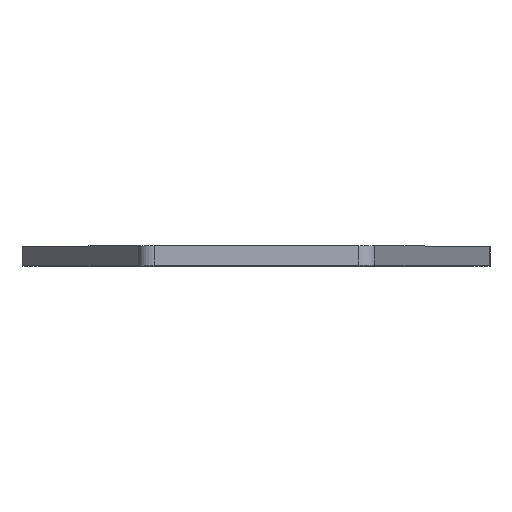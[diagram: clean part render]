
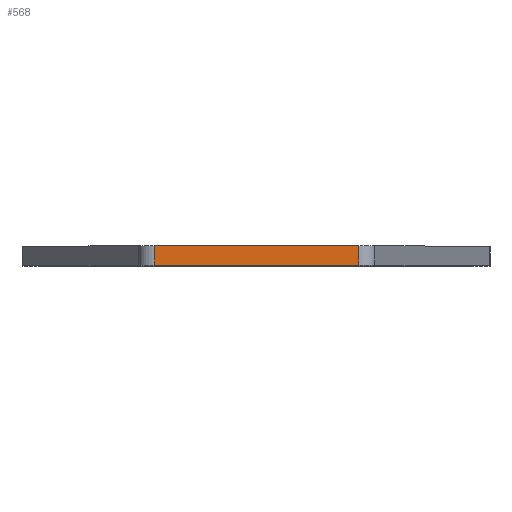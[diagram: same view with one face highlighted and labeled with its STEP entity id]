
A CAD part, top view. The second image highlights one B-rep face of the part: STEP entity #568.
In plain terms, the highlighted planar face has unit normal (0, 0, 1).
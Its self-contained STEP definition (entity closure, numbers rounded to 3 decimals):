
#12 = DIRECTION ( 'NONE',  ( 0., -1., 0. ) ) ;
#37 = EDGE_LOOP ( 'NONE', ( #613, #718, #761, #396 ) ) ;
#43 = LINE ( 'NONE', #737, #385 ) ;
#92 = CARTESIAN_POINT ( 'NONE',  ( -21.108, 0., 123. ) ) ;
#111 = CARTESIAN_POINT ( 'NONE',  ( -21.108, 4., 123. ) ) ;
#186 = DIRECTION ( 'NONE',  ( 0., -1., 0. ) ) ;
#202 = LINE ( 'NONE', #418, #676 ) ;
#222 = VERTEX_POINT ( 'NONE', #438 ) ;
#235 = FACE_OUTER_BOUND ( 'NONE', #37, .T. ) ;
#236 = DIRECTION ( 'NONE',  ( 1., 0., 0. ) ) ;
#270 = EDGE_CURVE ( 'NONE', #742, #352, #202, .T. ) ;
#277 = VERTEX_POINT ( 'NONE', #111 ) ;
#352 = VERTEX_POINT ( 'NONE', #92 ) ;
#368 = VECTOR ( 'NONE', #12, 1000. ) ;
#385 = VECTOR ( 'NONE', #186, 1000. ) ;
#396 = ORIENTED_EDGE ( 'NONE', *, *, #501, .T. ) ;
#418 = CARTESIAN_POINT ( 'NONE',  ( 20.864, 0., 123. ) ) ;
#427 = CARTESIAN_POINT ( 'NONE',  ( 20.864, 4., 123. ) ) ;
#438 = CARTESIAN_POINT ( 'NONE',  ( 20.864, 4., 123. ) ) ;
#444 = VECTOR ( 'NONE', #804, 1000. ) ;
#473 = EDGE_CURVE ( 'NONE', #222, #742, #43, .T. ) ;
#482 = CARTESIAN_POINT ( 'NONE',  ( 20.864, 4., 123. ) ) ;
#501 = EDGE_CURVE ( 'NONE', #277, #352, #747, .T. ) ;
#541 = PLANE ( 'NONE',  #587 ) ;
#568 = ADVANCED_FACE ( 'NONE', ( #235 ), #541, .T. ) ;
#587 = AXIS2_PLACEMENT_3D ( 'NONE', #482, #603, #236 ) ;
#603 = DIRECTION ( 'NONE',  ( 0., 0., 1. ) ) ;
#613 = ORIENTED_EDGE ( 'NONE', *, *, #270, .F. ) ;
#676 = VECTOR ( 'NONE', #792, 1000. ) ;
#691 = LINE ( 'NONE', #427, #444 ) ;
#718 = ORIENTED_EDGE ( 'NONE', *, *, #473, .F. ) ;
#737 = CARTESIAN_POINT ( 'NONE',  ( 20.864, 4., 123. ) ) ;
#742 = VERTEX_POINT ( 'NONE', #795 ) ;
#747 = LINE ( 'NONE', #762, #368 ) ;
#760 = EDGE_CURVE ( 'NONE', #222, #277, #691, .T. ) ;
#761 = ORIENTED_EDGE ( 'NONE', *, *, #760, .T. ) ;
#762 = CARTESIAN_POINT ( 'NONE',  ( -21.108, 4., 123. ) ) ;
#792 = DIRECTION ( 'NONE',  ( -1., 0., 0. ) ) ;
#795 = CARTESIAN_POINT ( 'NONE',  ( 20.864, 0., 123. ) ) ;
#804 = DIRECTION ( 'NONE',  ( -1., 0., 0. ) ) ;
